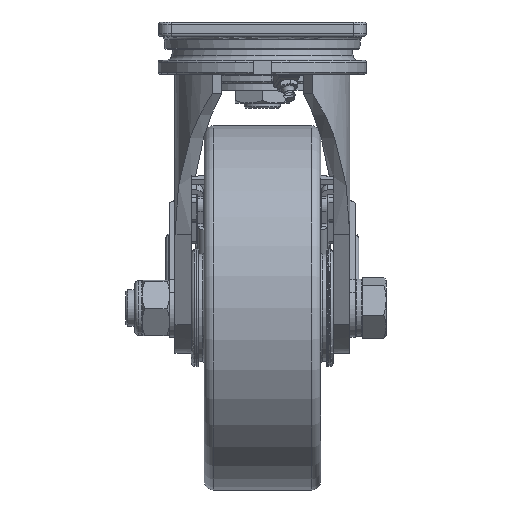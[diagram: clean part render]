
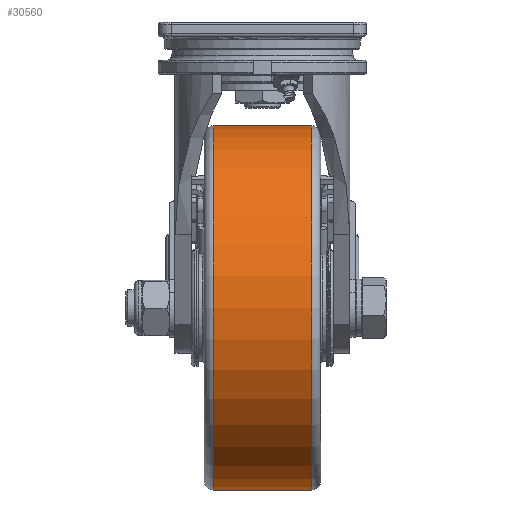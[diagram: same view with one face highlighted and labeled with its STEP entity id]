
A CAD part, left-side view. The second image highlights one B-rep face of the part: STEP entity #30560.
In plain terms, the highlighted cylindrical face has radius 100 mm (diameter 200 mm), a full revolution.
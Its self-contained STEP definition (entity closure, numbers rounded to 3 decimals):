
#2901=FACE_OUTER_BOUND('',#4773,.T.);
#4773=EDGE_LOOP('',(#21037,#21038,#21039,#21040,#21041,#21042));
#6752=LINE('',#43738,#9059);
#9059=VECTOR('',#35807,100.);
#11415=CIRCLE('',#32620,100.);
#11416=CIRCLE('',#32621,100.);
#11418=CIRCLE('',#32624,100.);
#11419=CIRCLE('',#32625,100.);
#12757=VERTEX_POINT('',#43728);
#12758=VERTEX_POINT('',#43729);
#12759=VERTEX_POINT('',#43734);
#12760=VERTEX_POINT('',#43735);
#15932=EDGE_CURVE('',#12757,#12758,#11415,.T.);
#15933=EDGE_CURVE('',#12758,#12757,#11416,.T.);
#15935=EDGE_CURVE('',#12759,#12760,#11418,.T.);
#15936=EDGE_CURVE('',#12760,#12759,#11419,.T.);
#15937=EDGE_CURVE('',#12760,#12758,#6752,.T.);
#21037=ORIENTED_EDGE('',*,*,#15935,.F.);
#21038=ORIENTED_EDGE('',*,*,#15936,.F.);
#21039=ORIENTED_EDGE('',*,*,#15937,.T.);
#21040=ORIENTED_EDGE('',*,*,#15933,.T.);
#21041=ORIENTED_EDGE('',*,*,#15932,.T.);
#21042=ORIENTED_EDGE('',*,*,#15937,.F.);
#30017=CYLINDRICAL_SURFACE('',#32623,100.);
#30560=ADVANCED_FACE('',(#2901),#30017,.T.);
#32620=AXIS2_PLACEMENT_3D('',#43730,#35795,#35796);
#32621=AXIS2_PLACEMENT_3D('',#43731,#35797,#35798);
#32623=AXIS2_PLACEMENT_3D('',#43733,#35801,#35802);
#32624=AXIS2_PLACEMENT_3D('',#43736,#35803,#35804);
#32625=AXIS2_PLACEMENT_3D('',#43737,#35805,#35806);
#35795=DIRECTION('center_axis',(0.,1.,0.));
#35796=DIRECTION('ref_axis',(1.,0.,0.));
#35797=DIRECTION('center_axis',(0.,1.,0.));
#35798=DIRECTION('ref_axis',(1.,0.,0.));
#35801=DIRECTION('center_axis',(0.,1.,0.));
#35802=DIRECTION('ref_axis',(0.,0.,1.));
#35803=DIRECTION('center_axis',(0.,1.,0.));
#35804=DIRECTION('ref_axis',(1.,0.,0.));
#35805=DIRECTION('center_axis',(0.,1.,0.));
#35806=DIRECTION('ref_axis',(1.,0.,0.));
#35807=DIRECTION('',(0.,-1.,0.));
#43728=CARTESIAN_POINT('',(57.,-27.,-33.25));
#43729=CARTESIAN_POINT('',(57.,-27.,-233.25));
#43730=CARTESIAN_POINT('Origin',(57.,-27.,-133.25));
#43731=CARTESIAN_POINT('Origin',(57.,-27.,-133.25));
#43733=CARTESIAN_POINT('Origin',(57.,0.,
-133.25));
#43734=CARTESIAN_POINT('',(57.,27.,-33.25));
#43735=CARTESIAN_POINT('',(57.,27.,-233.25));
#43736=CARTESIAN_POINT('Origin',(57.,27.,-133.25));
#43737=CARTESIAN_POINT('Origin',(57.,27.,-133.25));
#43738=CARTESIAN_POINT('',(57.,0.,-233.25));
